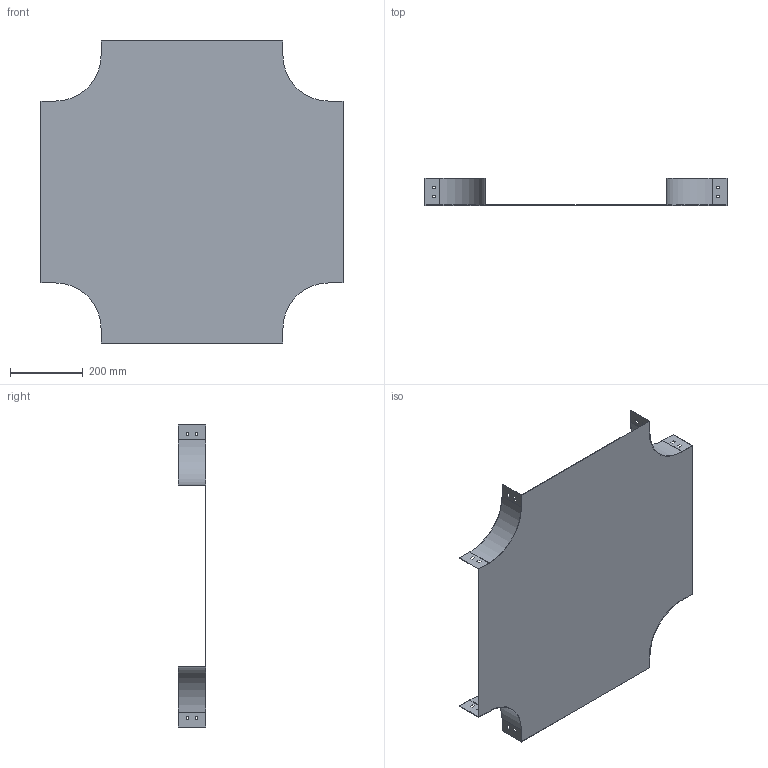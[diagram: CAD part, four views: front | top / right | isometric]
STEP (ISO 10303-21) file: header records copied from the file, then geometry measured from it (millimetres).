
FILE_DESCRIPTION (( 'STEP AP214' ), '1' );
FILE_NAME ('PC_507.step', '2025-07-16T09:22:47', ( '' ), ( '' ), 'SwSTEP 2.0', 'SolidWorks 2023', '' );
FILE_SCHEMA (( 'AUTOMOTIVE_DESIGN' ));
Length unit declared in the file: millimetre
Products named in the file (1): PC_507
Bounding box: 830 x 75 x 830 mm (x, y, z)
Volume: 1010828.6 mm3; surface area: 1354127.6 mm2
Topology: 1 solids, 1 shells, 98 faces, 288 edges, 192 vertices
Faces by surface type: plane 90, cylinder 8
Entity records: 3295 total; most frequent: CARTESIAN_POINT 579, ORIENTED_EDGE 576, DIRECTION 502, EDGE_CURVE 288, VECTOR 272, LINE 272, VERTEX_POINT 192, EDGE_LOOP 130
